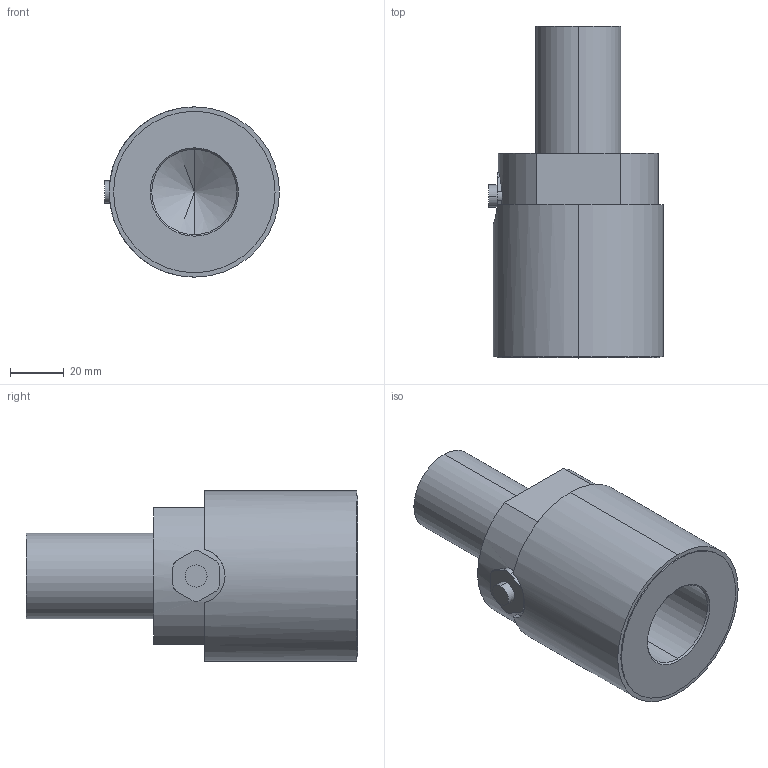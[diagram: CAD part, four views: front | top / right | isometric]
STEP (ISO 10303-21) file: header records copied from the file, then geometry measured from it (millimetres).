
FILE_DESCRIPTION (( 'STEP AP214' ), '1' );
FILE_NAME ('SS1122-30KLB.STEP', '2024-08-27T14:57:30', ( '' ), ( '' ), 'SwSTEP 2.0', 'SolidWorks 2008', '' );
FILE_SCHEMA (( 'AUTOMOTIVE_DESIGN' ));
Length unit declared in the file: inch
Products named in the file (1): SS1122-30KLB
Bounding box: 65.23 x 123.7 x 63.5 mm (x, y, z)
Volume: 228096.9 mm3; surface area: 30970 mm2
Topology: 1 solids, 1 shells, 40 faces, 98 edges, 63 vertices
Faces by surface type: cylinder 21, plane 15, cone 4
Entity records: 1335 total; most frequent: CARTESIAN_POINT 369, DIRECTION 200, ORIENTED_EDGE 192, EDGE_CURVE 96, AXIS2_PLACEMENT_3D 78, VERTEX_POINT 63, EDGE_LOOP 45, LINE 44
